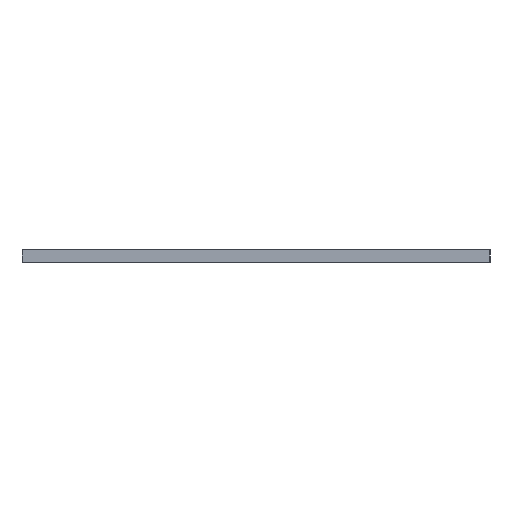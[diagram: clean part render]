
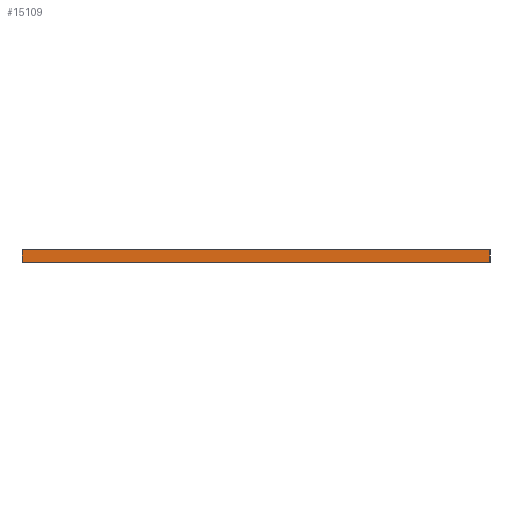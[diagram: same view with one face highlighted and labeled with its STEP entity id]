
A CAD part, left-side view. The second image highlights one B-rep face of the part: STEP entity #15109.
In plain terms, the highlighted planar face has unit normal (-1, 0, 0).
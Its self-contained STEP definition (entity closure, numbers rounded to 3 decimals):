
#2559=FACE_OUTER_BOUND('',#3429,.T.);
#3429=EDGE_LOOP('',(#14019,#14020,#14021,#14022));
#4574=LINE('',#31118,#5722);
#4575=LINE('',#31141,#5723);
#4576=LINE('',#31142,#5724);
#4577=LINE('',#31143,#5725);
#5722=VECTOR('',#16982,10.);
#5723=VECTOR('',#17023,10.);
#5724=VECTOR('',#17024,10.);
#5725=VECTOR('',#17025,10.);
#7235=VERTEX_POINT('',#31111);
#7238=VERTEX_POINT('',#31116);
#7239=VERTEX_POINT('',#31139);
#7240=VERTEX_POINT('',#31140);
#9502=EDGE_CURVE('',#7238,#7235,#4574,.T.);
#9503=EDGE_CURVE('',#7239,#7240,#4575,.T.);
#9504=EDGE_CURVE('',#7239,#7235,#4576,.T.);
#9505=EDGE_CURVE('',#7240,#7238,#4577,.T.);
#14019=ORIENTED_EDGE('',*,*,#9503,.F.);
#14020=ORIENTED_EDGE('',*,*,#9504,.T.);
#14021=ORIENTED_EDGE('',*,*,#9502,.F.);
#14022=ORIENTED_EDGE('',*,*,#9505,.F.);
#14295=PLANE('',#15377);
#15109=ADVANCED_FACE('',(#2559),#14295,.T.);
#15377=AXIS2_PLACEMENT_3D('',#31138,#17021,#17022);
#16982=DIRECTION('',(0.,-1.,0.));
#17021=DIRECTION('center_axis',(-1.,0.,0.));
#17022=DIRECTION('ref_axis',(0.,-1.,0.));
#17023=DIRECTION('',(0.,1.,0.));
#17024=DIRECTION('',(0.,0.,1.));
#17025=DIRECTION('',(0.,0.,1.));
#31111=CARTESIAN_POINT('',(0.,-77.,2.));
#31116=CARTESIAN_POINT('',(0.,0.,2.));
#31118=CARTESIAN_POINT('',(0.,-77.,2.));
#31138=CARTESIAN_POINT('Origin',(0.,0.,0.));
#31139=CARTESIAN_POINT('',(0.,-77.,0.));
#31140=CARTESIAN_POINT('',(0.,0.,0.));
#31141=CARTESIAN_POINT('',(0.,-77.,0.));
#31142=CARTESIAN_POINT('',(0.,-77.,0.));
#31143=CARTESIAN_POINT('',(0.,0.,0.));
